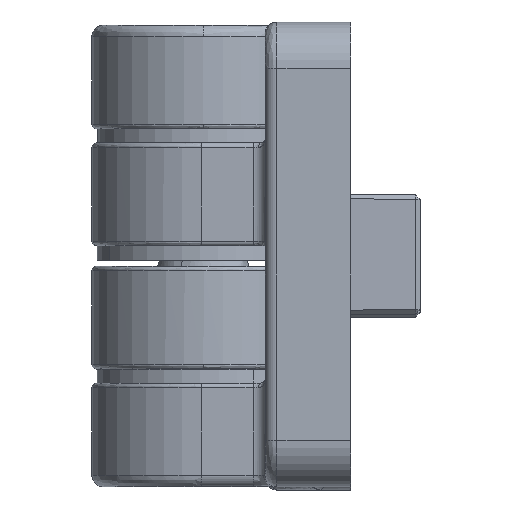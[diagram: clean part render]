
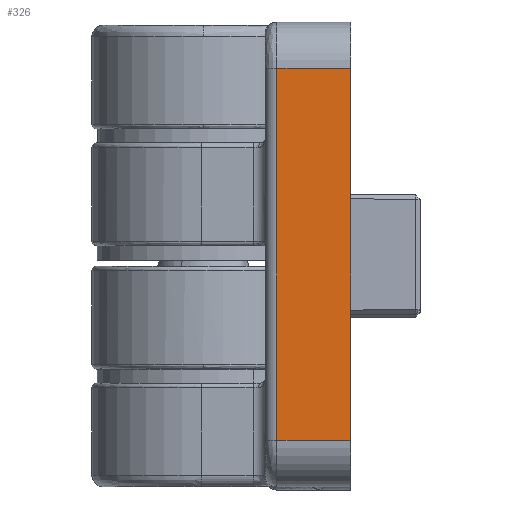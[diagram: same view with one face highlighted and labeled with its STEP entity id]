
A CAD part, left-side view. The second image highlights one B-rep face of the part: STEP entity #326.
In plain terms, the highlighted planar face has unit normal (-1, 0, 0).
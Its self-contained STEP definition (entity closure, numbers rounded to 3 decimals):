
#133 = LINE ( 'NONE', #3257, #3015 ) ;
#326 = ADVANCED_FACE ( 'NONE', ( #5864 ), #6387, .T. ) ;
#381 = CARTESIAN_POINT ( 'NONE',  ( -30., -9.5, 12. ) ) ;
#388 = EDGE_CURVE ( 'NONE', #6350, #976, #5282, .T. ) ;
#510 = EDGE_CURVE ( 'NONE', #4113, #976, #3259, .T. ) ;
#792 = DIRECTION ( 'NONE',  ( 0., 0., -1. ) ) ;
#976 = VERTEX_POINT ( 'NONE', #5844 ) ;
#1218 = DIRECTION ( 'NONE',  ( 0., 0., -1. ) ) ;
#1424 = VECTOR ( 'NONE', #792, 1000. ) ;
#1452 = ORIENTED_EDGE ( 'NONE', *, *, #5956, .F. ) ;
#1727 = DIRECTION ( 'NONE',  ( 0., 1., 0. ) ) ;
#2224 = DIRECTION ( 'NONE',  ( -1., 0., 0. ) ) ;
#2225 = LINE ( 'NONE', #4257, #5617 ) ;
#2253 = CARTESIAN_POINT ( 'NONE',  ( -30., -4., -15. ) ) ;
#2267 = ORIENTED_EDGE ( 'NONE', *, *, #510, .T. ) ;
#2292 = CARTESIAN_POINT ( 'NONE',  ( -30., -4.75, -15. ) ) ;
#2592 = VECTOR ( 'NONE', #3350, 1000. ) ;
#2704 = CARTESIAN_POINT ( 'NONE',  ( -30., -4.75, 12. ) ) ;
#2783 = DIRECTION ( 'NONE',  ( 0., 0., 1. ) ) ;
#2817 = CARTESIAN_POINT ( 'NONE',  ( -30., -4., -12. ) ) ;
#3015 = VECTOR ( 'NONE', #1727, 1000. ) ;
#3257 = CARTESIAN_POINT ( 'NONE',  ( -30., -4., 12. ) ) ;
#3259 = LINE ( 'NONE', #2292, #1424 ) ;
#3350 = DIRECTION ( 'NONE',  ( 0., 1., 0. ) ) ;
#3438 = ORIENTED_EDGE ( 'NONE', *, *, #5856, .T. ) ;
#3974 = VERTEX_POINT ( 'NONE', #381 ) ;
#4113 = VERTEX_POINT ( 'NONE', #2704 ) ;
#4171 = EDGE_LOOP ( 'NONE', ( #5915, #1452, #3438, #2267 ) ) ;
#4257 = CARTESIAN_POINT ( 'NONE',  ( -30., -9.5, -15. ) ) ;
#5214 = CARTESIAN_POINT ( 'NONE',  ( -30., -9.5, -12. ) ) ;
#5282 = LINE ( 'NONE', #2817, #2592 ) ;
#5351 = AXIS2_PLACEMENT_3D ( 'NONE', #2253, #2224, #2783 ) ;
#5617 = VECTOR ( 'NONE', #1218, 1000. ) ;
#5844 = CARTESIAN_POINT ( 'NONE',  ( -30., -4.75, -12. ) ) ;
#5856 = EDGE_CURVE ( 'NONE', #3974, #4113, #133, .T. ) ;
#5864 = FACE_OUTER_BOUND ( 'NONE', #4171, .T. ) ;
#5915 = ORIENTED_EDGE ( 'NONE', *, *, #388, .F. ) ;
#5956 = EDGE_CURVE ( 'NONE', #3974, #6350, #2225, .T. ) ;
#6350 = VERTEX_POINT ( 'NONE', #5214 ) ;
#6387 = PLANE ( 'NONE',  #5351 ) ;
